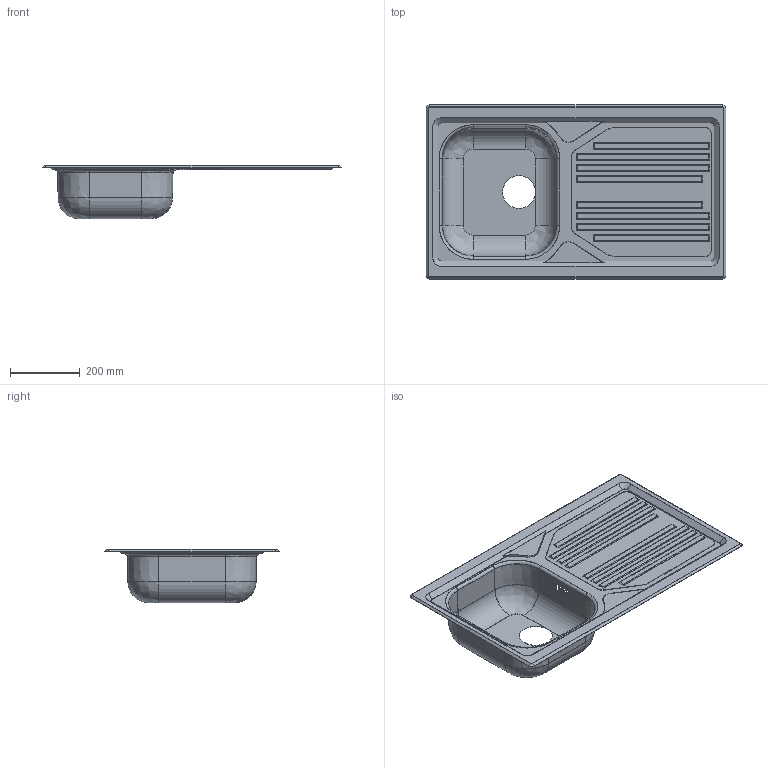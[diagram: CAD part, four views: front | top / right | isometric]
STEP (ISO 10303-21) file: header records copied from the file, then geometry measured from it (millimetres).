
FILE_DESCRIPTION((''),'1');
FILE_NAME('C:/Users/linop/Desktop/LYP861R.stp','2018-02-26T07:40:26',(''),(''),'Spatial Interop R20 SP1','Kubotek KeyCreator V9.0.3 (16864)',' ');
FILE_SCHEMA(('CONFIG_CONTROL_DESIGN'));
Length unit declared in the file: millimetre
Products named in the file (2): 1; 2
Bounding box: 860 x 500 x 153.6 mm (x, y, z)
Volume: 517548.8 mm3; surface area: 1728324.7 mm2
Topology: 2 solids, 3 shells, 236 faces, 584 edges, 372 vertices
Faces by surface type: plane 146, cylinder 50, cone 24, torus 8, revolution 8
Full cylindrical faces by diameter (mm): 6.5 x1, 94 x1
Entity records: 7093 total; most frequent: CARTESIAN_POINT 1495, ORIENTED_EDGE 1164, DIRECTION 1073, EDGE_CURVE 582, VERTEX_POINT 372, AXIS2_PLACEMENT_3D 358, LINE 349, VECTOR 349
